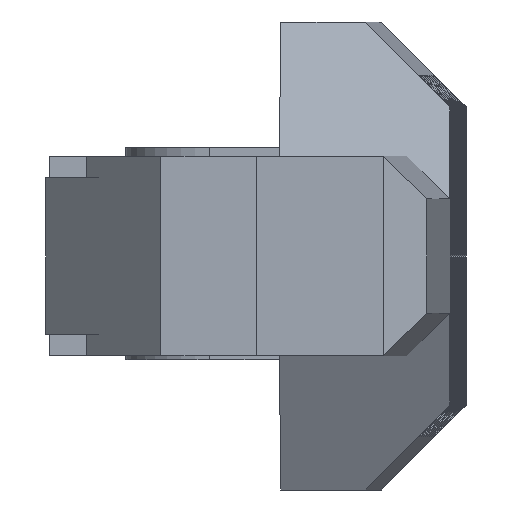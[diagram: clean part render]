
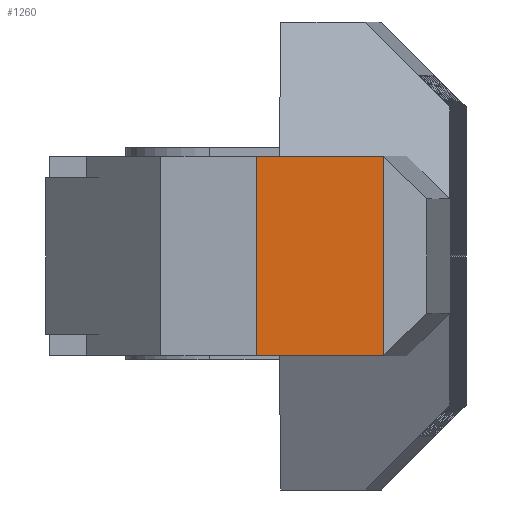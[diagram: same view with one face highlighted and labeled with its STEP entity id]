
A CAD part, front view. The second image highlights one B-rep face of the part: STEP entity #1260.
In plain terms, the highlighted planar face has unit normal (-0.014, -1, 0).
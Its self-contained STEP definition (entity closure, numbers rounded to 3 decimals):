
#166=CARTESIAN_POINT('',(14.918,101.606,-30.4));
#167=VERTEX_POINT('',#166);
#174=CARTESIAN_POINT('',(14.918,101.606,-25.706));
#175=VERTEX_POINT('',#174);
#176=CARTESIAN_POINT('',(14.918,101.606,-30.4));
#177=DIRECTION('',(-0.,-0.,1.));
#178=VECTOR('',#177,4.694);
#179=LINE('',#176,#178);
#180=EDGE_CURVE('',#167,#175,#179,.T.);
#577=CARTESIAN_POINT('',(17.918,101.564,-30.4));
#578=VERTEX_POINT('',#577);
#579=CARTESIAN_POINT('',(17.918,101.564,-30.4));
#580=DIRECTION('',(-1.,0.014,-0.));
#581=VECTOR('',#580,3.);
#582=LINE('',#579,#581);
#583=EDGE_CURVE('',#578,#167,#582,.T.);
#672=CARTESIAN_POINT('',(17.918,101.564,-25.706));
#673=VERTEX_POINT('',#672);
#674=CARTESIAN_POINT('',(17.918,101.564,-25.706));
#675=DIRECTION('',(-1.,0.014,-0.));
#676=VECTOR('',#675,3.);
#677=LINE('',#674,#676);
#678=EDGE_CURVE('',#673,#175,#677,.T.);
#1244=CARTESIAN_POINT('',(18.918,101.55,-28.053));
#1245=DIRECTION('',(0.014,1.,0.));
#1246=DIRECTION('',(0.,0.,1.));
#1247=AXIS2_PLACEMENT_3D('',#1244,#1245,#1246);
#1248=PLANE('',#1247);
#1249=ORIENTED_EDGE('',*,*,#180,.F.);
#1250=ORIENTED_EDGE('',*,*,#583,.F.);
#1251=CARTESIAN_POINT('',(17.918,101.564,-30.4));
#1252=DIRECTION('',(0.,0.,1.));
#1253=VECTOR('',#1252,4.694);
#1254=LINE('',#1251,#1253);
#1255=EDGE_CURVE('',#578,#673,#1254,.T.);
#1256=ORIENTED_EDGE('',*,*,#1255,.T.);
#1257=ORIENTED_EDGE('',*,*,#678,.T.);
#1258=EDGE_LOOP('',(#1249,#1250,#1256,#1257));
#1259=FACE_BOUND('',#1258,.T.);
#1260=ADVANCED_FACE('',(#1259),#1248,.F.);
